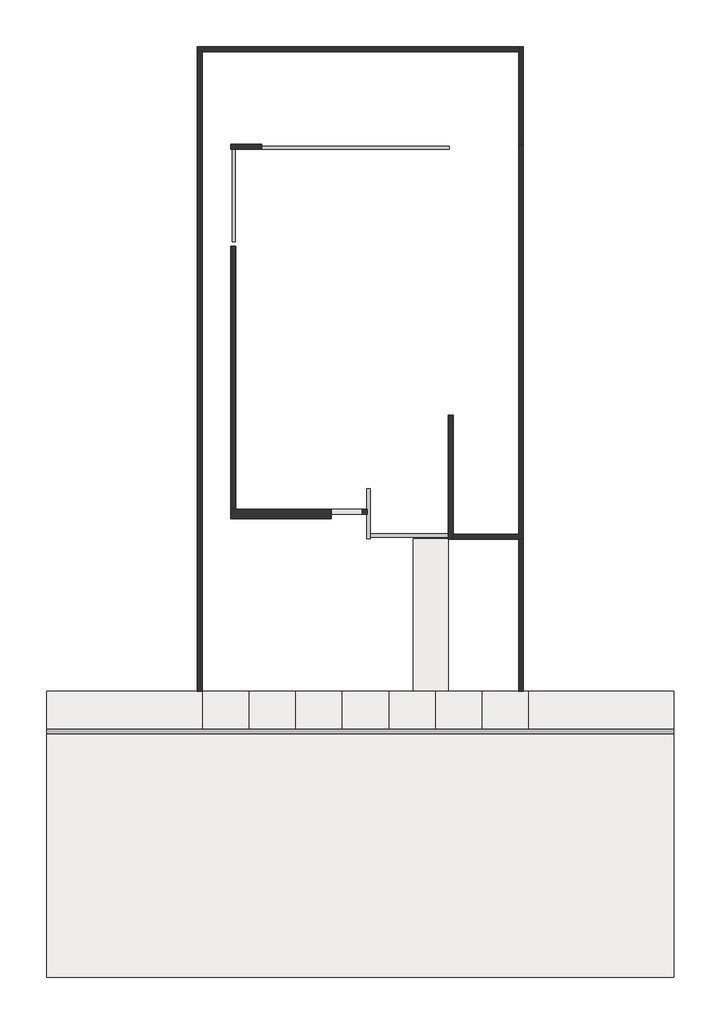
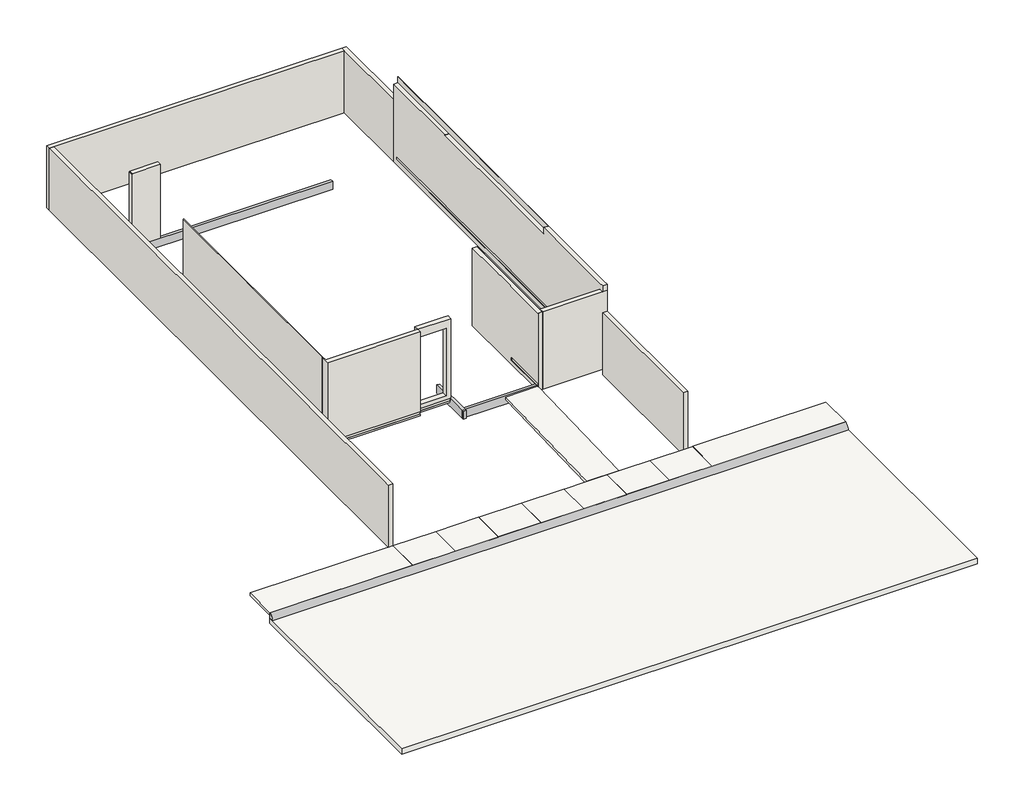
# One storey: 11 walls, 4 proxies, 3 slabs.
"""IFC4 building model written with IfcOpenShell, lengths in millimetres."""

from ifc_helpers import new_model, si_unit, frame, origin, place, context, project, spatial, polyline, circle_curve, outline, extrude, faceted_brep, element, save
from ifc_brep_helpers import plane_surface, cylinder_surface, advanced_brep

model = new_model("IFC4")

# Units and contexts
model_context = context("Model", 3, world=origin())
ifc_project = project(units=[si_unit("LENGTHUNIT", "METRE", prefix="MILLI")], contexts=[model_context])

# Site, building, storey
site = spatial("IfcSite", under=ifc_project)
building = spatial("IfcBuilding", under=site)
storey = spatial("IfcBuildingStorey", under=building, Name="00_NTN", Elevation=0.0)

# Proxies
placement = place(None, origin())
element("IfcBuildingElementProxy", 1, Name="GUARNICIÓN TIPO PECHO PALOMA", ObjectType="GUARNICIÓN TIPO PECHO PALOMA", at=placement, inside=storey, context=model_context, shape_type="AdvancedBrep", body=[
    advanced_brep(
    [(-2088.4653648, -7278.0146426, -200.0), (-2088.4653648, -7441.0789185, -200.0), (-2088.4653648, -7278.0146426, 0.0), (-2088.4653648, -7278.0146426, -100.0), (18091.5346352, -7441.0789185, -200.0), (18091.5346352, -7278.0146426, -200.0), (18091.5346352, -7278.0146426, -100.0), (18091.5346352, -7278.0146426, 0.0), (13416.5346352, -7278.0146426, 0.0), (13411.5346352, -7278.0146426, 0.0), (11916.5346352, -7278.0146426, 0.0), (11911.5346352, -7278.0146426, 0.0), (10416.5346352, -7278.0146426, 0.0), (10411.5346352, -7278.0146426, 0.0), (8916.5346352, -7278.0146426, 0.0), (8911.5346352, -7278.0146426, 0.0), (7416.5346352, -7278.0146426, 0.0), (7411.5346352, -7278.0146426, 0.0), (5916.5346352, -7278.0146426, 0.0), (5911.5346352, -7278.0146426, 0.0), (4416.5346352, -7278.0146426, 0.0), (4411.5346352, -7278.0146426, 0.0), (2916.5346352, -7278.0146426, 0.0), (2911.5346352, -7278.0146426, 0.0)],
    [
        (0, 1),
        (1, 2, circle_curve(frame((-2088.4653648, -7188.8061829, -239.2084597), z_axis=(-1.0, 0.0, 0.0), x_axis=(0.0, -1.0, 0.0)), 255.3014619)),
        (2, 3),
        (3, 0),
        (4, 5),
        (5, 6),
        (6, 7),
        (7, 4, circle_curve(frame((18091.5346352, -7188.8061829, -239.2084597), z_axis=(1.0, 0.0, 0.0), x_axis=(0.0, -1.0, 0.0)), 255.3014619)),
        (0, 5),
        (4, 1),
        (7, 8),
        (8, 9),
        (9, 10),
        (10, 11),
        (11, 12),
        (12, 13),
        (13, 14),
        (14, 15),
        (15, 16),
        (16, 17),
        (17, 18),
        (18, 19),
        (19, 20),
        (20, 21),
        (21, 22),
        (22, 23),
        (23, 2),
    ],
    [
        plane_surface(frame((-2088.4653648, -7278.0146426, -258.0503015), z_axis=(-1.0, 0.0, 0.0), x_axis=(0.0, 1.0, 0.0))),
        plane_surface(frame((18091.5346352, -7278.0146426, -258.0503015), z_axis=(1.0, 0.0, 0.0), x_axis=(0.0, 1.0, 0.0))),
        plane_surface(frame((-2088.4653648, -7278.0146426, -200.0), z_axis=(0.0, 0.0, -1.0), x_axis=(1.0, 0.0, 0.0))),
        cylinder_surface(frame((-2088.4653648, -7188.8061829, -239.2084597), z_axis=(-1.0, 0.0, 0.0), x_axis=(0.0, -1.0, 0.0)), 255.3014619),
        plane_surface(frame((-2088.4653648, -7278.0146426, 0.0), z_axis=(0.0, 1.0, 0.0), x_axis=(1.0, 0.0, 0.0))),
    ],
    [
        (0, [[1, 2, 3, 4]]),
        (1, [[5, 6, 7, 8]]),
        (2, [[-1, 9, -5, 10]]),
        (3, [[-2, -10, -8, 11, 12, 13, 14, 15, 16, 17, 18, 19, 20, 21, 22, 23, 24, 25, 26, 27]]),
        (4, [[-9, -4, -3, -27, -26, -25, -24, -23, -22, -21, -20, -19, -18, -17, -16, -15, -14, -13, -12, -11, -7, -6]]),
    ],
),
])
element("IfcBuildingElementProxy", 2, Name="Borde de losa", ObjectType="Borde de losa", at=placement, inside=storey, context=model_context, shape_type="SweptSolid", body=[
    extrude(outline(polyline([(8216.5346352, -1113.0146426), (8216.5346352, -1013.0146426), (10846.5346352, -1013.0146426), (10846.5346352, -1113.0146426), (8216.5346352, -1113.0146426)])), frame((0.0, 0.0, -150.0), z_axis=(0.0, 0.0, 1.0), x_axis=(1.0, 0.0, 0.0)), (0.0, 0.0, 1.0), 300.0),
])
element("IfcBuildingElementProxy", 3, Name="Borde de losa", ObjectType="Borde de losa", at=placement, inside=storey, context=model_context, shape_type="SweptSolid", body=[
    extrude(outline(polyline([(8216.5346352, 436.9853574), (8316.5346352, 436.9853574), (8316.5346352, -1163.0146426), (8216.5346352, -1163.0146426), (8216.5346352, 436.9853574)])), frame((0.0, 0.0, -150.0), z_axis=(0.0, 0.0, 1.0), x_axis=(1.0, 0.0, 0.0)), (0.0, 0.0, 1.0), 300.0),
])
element("IfcBuildingElementProxy", 4, Name="Borde de losa", ObjectType="Borde de losa", at=placement, inside=storey, context=model_context, shape_type="Brep", body=[
    faceted_brep([(10866.5346352, 11451.9853574, -150.0), (10866.5346352, 11451.9853574, 150.0), (10866.5346352, 11351.9853574, 150.0), (10866.5346352, 11351.9853574, -150.0), (3881.5346352, 11451.9853574, -150.0), (3881.5346352, 11451.9853574, 150.0), (3981.5346352, 11351.9853574, 150.0), (3981.5346352, 11351.9853574, -150.0), (3881.5346352, 8386.9853574, -150.0), (3981.5346352, 8386.9853574, -150.0), (3981.5346352, 8386.9853574, 150.0), (3881.5346352, 8386.9853574, 150.0)], [[[0, 1, 2, 3]], [[1, 0, 4, 5]], [[2, 1, 5, 6]], [[3, 2, 6, 7]], [[0, 3, 7, 4]], [[8, 9, 10, 11]], [[5, 4, 8, 11]], [[6, 5, 11, 10]], [[7, 6, 10, 9]], [[4, 7, 9, 8]]]),
])

# Slabs
element("IfcSlab", 5, ObjectType="FIRME DE CONCRETO EXT 10 CM", at=placement, inside=storey, context=model_context, shape_type="SweptSolid", body=[
    extrude(outline(polyline([(-6078.0146426, -100.0), (-6078.0146426, 0.0), (-1163.0146426, 150.0), (-1163.0146426, 50.0), (-6078.0146426, -100.0)])), frame((9711.5346352, 0.0, 0.0), z_axis=(1.0, 0.0, 0.0), x_axis=(0.0, 1.0, 0.0)), (0.0, 0.0, 1.0), 1120.0),
])
element("IfcSlab", 6, ObjectType="BANQUETA DE CONCRETO 10 CM", at=placement, inside=storey, context=model_context, shape_type="SweptSolid", body=[
    extrude(outline(polyline([(-100.0, -2088.4653648), (-100.0, 18091.5346352), (0.0, 18091.5346352), (0.0, 13416.5346352), (-10.0, 13416.5346352), (-10.0, 13411.5346352), (0.0, 13411.5346352), (0.0, 11916.5346352), (-10.0, 11916.5346352), (-10.0, 11911.5346352), (0.0, 11911.5346352), (0.0, 10416.5346352), (-10.0, 10416.5346352), (-10.0, 10411.5346352), (0.0, 10411.5346352), (0.0, 8916.5346352), (-10.0, 8916.5346352), (-10.0, 8911.5346352), (0.0, 8911.5346352), (0.0, 7416.5346352), (-10.0, 7416.5346352), (-10.0, 7411.5346352), (0.0, 7411.5346352), (0.0, 5916.5346352), (-10.0, 5916.5346352), (-10.0, 5911.5346352), (0.0, 5911.5346352), (0.0, 4416.5346352), (-10.0, 4416.5346352), (-10.0, 4411.5346352), (0.0, 4411.5346352), (0.0, 2916.5346352), (-10.0, 2916.5346352), (-10.0, 2911.5346352), (0.0, 2911.5346352), (0.0, -2088.4653648), (-100.0, -2088.4653648)])), frame((0.0, -7278.0146426, 0.0), z_axis=(0.0, 1.0, 0.0), x_axis=(0.0, 0.0, 1.0)), (0.0, 0.0, 1.0), 1200.0),
])
element("IfcSlab", 7, ObjectType="VIALIDAD DE CONCRETO 20 CM", at=placement, inside=storey, context=model_context, shape_type="SweptSolid", body=[
    extrude(outline(polyline([(18091.5346352, -7278.0146426), (18091.5346352, -15278.0146426), (-2088.4653648, -15278.0146426), (-2088.4653648, -7278.0146426), (18091.5346352, -7278.0146426)])), frame((0.0, 0.0, -400.0), z_axis=(0.0, 0.0, 1.0), x_axis=(1.0, 0.0, 0.0)), (0.0, 0.0, 1.0), 200.0),
])

# Walls
element("IfcWall", 8, ObjectType="M_TABICÓN_28 MO+ MO", at=placement, inside=storey, context=model_context, shape_type="Brep", body=[
    faceted_brep([(3831.5346352, -528.0146426, 0.0), (7071.5346352, -528.0146426, 0.0), (7071.5346352, -528.0146426, 49.7164492), (7060.2812659, -528.0146426, 49.5956873), (3831.5346352, -528.0146426, 49.5956873), (7071.5346352, -528.0146426, 3100.0), (3991.5346352, -528.0146426, 3100.0), (3831.5346352, -528.0146426, 3100.0), (3831.5346352, -528.0146426, 149.5956873), (7060.2812659, -528.0146426, 149.5956873), (7071.5346352, -528.0146426, 149.7164492), (7071.5346352, -218.0146426, 0.0), (3991.5346352, -218.0146426, 0.0), (3831.5346352, -218.0146426, 0.0), (3831.5346352, -218.0146426, 3100.0), (3846.5346352, -218.0146426, 3100.0), (3846.5346352, -218.0146426, 2870.0), (3991.5346352, -218.0146426, 2870.0), (7071.5346352, -218.0146426, 2870.0), (7071.5346352, -378.0146426, 2870.0), (7071.5346352, -378.0146426, 3100.0), (7071.5346352, -513.0146426, 150.0), (7071.5346352, -513.0146426, 50.0), (3846.5346352, -378.0146426, 3100.0), (3831.5346352, -513.0146426, 50.0), (3831.5346352, -513.0146426, 150.0), (3846.5346352, -378.0146426, 2870.0)], [[[0, 1, 2, 3, 4]], [[5, 6, 7, 8, 9, 10]], [[11, 12, 13, 14, 15, 16, 17, 18]], [[1, 0, 13, 12, 11]], [[1, 11, 18, 19, 20, 5, 10, 21, 22, 2]], [[7, 6, 5, 20, 23, 15, 14]], [[7, 14, 13, 0, 4, 24, 25, 8]], [[21, 25, 24, 22]], [[25, 21, 9, 8]], [[9, 21, 10]], [[3, 22, 24, 4]], [[22, 3, 2]], [[26, 19, 18, 17, 16]], [[23, 26, 16, 15]], [[26, 23, 20, 19]]]),
])
element("IfcWall", 9, ObjectType="M_LADRILLO_13-YESO+YESO", at=placement, inside=storey, context=model_context, shape_type="Brep", body=[
    faceted_brep([(10831.5346352, 2801.9853574, 0.0), (10831.5346352, -1178.0146426, 0.0), (10831.5346352, -1178.0146426, 2870.0), (10831.5346352, -1163.0146426, 2870.0), (10831.5346352, -1018.0146426, 2870.0), (10831.5346352, 421.9853574, 2870.0), (10831.5346352, 581.9853574, 2870.0), (10831.5346352, 2801.9853574, 2870.0), (10831.5346352, -1163.0146426, 150.0), (10831.5346352, 436.9853574, 150.0), (10831.5346352, 436.9853574, 250.0), (10831.5346352, 421.9853574, 250.0), (10831.5346352, -1163.0146426, 250.0), (10991.5346352, -1178.0146426, 0.0), (10991.5346352, -1018.0146426, 0.0), (10991.5346352, 2801.9853574, 0.0), (10991.5346352, 2801.9853574, 2870.0), (10991.5346352, -1018.0146426, 2870.0), (10991.5346352, -1163.0146426, 2870.0), (10991.5346352, -1178.0146426, 2870.0), (10976.5346352, 2801.9853574, 2870.0), (10976.5346352, -1178.0146426, 2870.0), (10976.5346352, -1163.0146426, 2870.0), (10976.5346352, 2381.9853574, 2870.0), (10846.5346352, -1163.0146426, 150.0), (10846.5346352, 436.9853574, 150.0), (10846.5346352, 436.9853574, 250.0), (10846.5346352, -1163.0146426, 250.0)], [[[0, 1, 2, 3, 4, 5, 6, 7], [8, 9, 10, 11, 12]], [[13, 14, 15, 16, 17, 18, 19]], [[1, 0, 15, 14, 13]], [[0, 7, 20, 16, 15]], [[2, 1, 13, 19, 21]], [[7, 6, 5, 4, 3, 22, 23, 20]], [[3, 2, 21, 22]], [[18, 17, 16, 20, 23, 22]], [[19, 18, 22, 21]], [[24, 25, 9, 8]], [[26, 27, 12, 11, 10]], [[25, 26, 10, 9]], [[25, 24, 27, 26]], [[27, 24, 8, 12]]]),
])
element("IfcWall", 10, ObjectType="M_LADRILLO_13-YESO+YESO", at=placement, inside=storey, context=model_context, shape_type="Brep", body=[
    faceted_brep([(10991.5346352, -1178.0146426, 0.0), (13251.5346352, -1178.0146426, 0.0), (13251.5346352, -1178.0146426, 2100.0), (13251.5346352, -1178.0146426, 2870.0), (13091.5346352, -1178.0146426, 2870.0), (10991.5346352, -1178.0146426, 2870.0), (13251.5346352, -1018.0146426, 0.0), (13091.5346352, -1018.0146426, 0.0), (10991.5346352, -1018.0146426, 0.0), (10991.5346352, -1018.0146426, 185.0), (13091.5346352, -1018.0146426, 185.0), (13106.5346352, -1018.0146426, 185.0), (13106.5346352, -1018.0146426, 300.0), (13091.5346352, -1018.0146426, 300.0), (10991.5346352, -1018.0146426, 300.0), (10991.5346352, -1018.0146426, 2870.0), (13091.5346352, -1018.0146426, 2870.0), (13251.5346352, -1018.0146426, 2870.0), (10991.5346352, -1033.0146426, 300.0), (10991.5346352, -1033.0146426, 185.0), (13106.5346352, -1033.0146426, 185.0), (13106.5346352, -1033.0146426, 300.0)], [[[0, 1, 2, 3, 4, 5]], [[6, 7, 8, 9, 10, 11, 12, 13, 14, 15, 16, 17]], [[1, 0, 8, 7, 6]], [[5, 4, 3, 17, 16, 15]], [[0, 5, 15, 14, 18, 19, 9, 8]], [[1, 6, 17, 3, 2]], [[19, 20, 11, 10, 9]], [[12, 21, 18, 14, 13]], [[20, 21, 12, 11]], [[21, 20, 19, 18]]]),
])
element("IfcWall", 11, ObjectType="M_LADRILLO_13-YESO+YESO", at=placement, inside=storey, context=model_context, shape_type="Brep", body=[
    faceted_brep([(13251.5346352, -1018.0146426, 0.0), (13251.5346352, 11501.9853574, 0.0), (13251.5346352, 11501.9853574, 2300.0), (13251.5346352, 11501.9853574, 3100.0), (13251.5346352, 8321.9853574, 3100.0), (13251.5346352, -1018.0146426, 3100.0), (13251.5346352, -1178.0146426, 3100.0), (13251.5346352, -1178.0146426, 2870.0), (13251.5346352, -1018.0146426, 2870.0), (13091.5346352, 11501.9853574, 0.0), (13091.5346352, 11341.9853574, 0.0), (13091.5346352, 8401.9853574, 0.0), (13091.5346352, 8241.9853574, 0.0), (13091.5346352, -1018.0146426, 0.0), (13091.5346352, -1018.0146426, 185.0), (13091.5346352, 8241.9853574, 185.0), (13091.5346352, 8401.9853574, 185.0), (13091.5346352, 11341.9853574, 185.0), (13091.5346352, 11356.9853574, 185.0), (13091.5346352, 11356.9853574, 300.0), (13091.5346352, 11341.9853574, 300.0), (13091.5346352, 8401.9853574, 300.0), (13091.5346352, 8241.9853574, 300.0), (13091.5346352, 4461.9853574, 300.0), (13091.5346352, 4301.9853574, 300.0), (13091.5346352, -1018.0146426, 300.0), (13091.5346352, -1018.0146426, 2870.0), (13091.5346352, -1178.0146426, 2870.0), (13091.5346352, -1178.0146426, 3100.0), (13091.5346352, -1018.0146426, 3100.0), (13091.5346352, 2381.9853574, 3100.0), (13091.5346352, 2381.9853574, 2870.0), (13091.5346352, 4301.9853574, 2870.0), (13091.5346352, 4461.9853574, 2870.0), (13091.5346352, 8241.9853574, 2870.0), (13091.5346352, 8386.9853574, 2870.0), (13091.5346352, 8386.9853574, 2884.0), (13091.5346352, 8401.9853574, 2884.0), (13091.5346352, 11341.9853574, 2884.0), (13091.5346352, 11501.9853574, 2884.0), (13091.5346352, 11501.9853574, 2300.0), (13236.5346352, 11501.9853574, 3100.0), (13236.5346352, 8386.9853574, 3100.0), (13236.5346352, 2381.9853574, 3100.0), (13236.5346352, 11501.9853574, 2884.0), (13106.5346352, -1018.0146426, 300.0), (13106.5346352, -1018.0146426, 185.0), (13106.5346352, 11356.9853574, 185.0), (13106.5346352, 11356.9853574, 300.0), (13236.5346352, 8386.9853574, 2884.0), (13236.5346352, 8386.9853574, 2870.0), (13236.5346352, 2381.9853574, 2870.0)], [[[0, 1, 2, 3, 4, 5, 6, 7, 8]], [[9, 10, 11, 12, 13, 14, 15, 16, 17, 18, 19, 20, 21, 22, 23, 24, 25, 26, 27, 28, 29, 30, 31, 32, 33, 34, 35, 36, 37, 38, 39, 40]], [[1, 0, 13, 12, 11, 10, 9]], [[6, 5, 4, 3, 41, 42, 43, 30, 29, 28]], [[1, 9, 40, 39, 44, 41, 3, 2]], [[13, 0, 8, 26, 25, 45, 46, 14]], [[6, 28, 27, 7]], [[27, 26, 8, 7]], [[46, 47, 18, 17, 16, 15, 14]], [[48, 45, 25, 24, 23, 22, 21, 20, 19]], [[47, 46, 45, 48]], [[49, 44, 39, 38, 37, 36]], [[44, 49, 50, 51, 43, 42, 41]], [[51, 50, 35, 34, 33, 32, 31]], [[50, 49, 36, 35]], [[43, 51, 31, 30]], [[47, 48, 19, 18]]]),
])
element("IfcWall", 12, ObjectType="M_LADRILLO_13-YESO+YESO", at=placement, inside=storey, context=model_context, shape_type="SweptSolid", body=[
    extrude(outline(polyline([(3100.0, 3831.5346352), (0.0, 3831.5346352), (0.0, 3991.5346352), (185.0, 3991.5346352), (185.0, 3976.5346352), (300.0, 3976.5346352), (300.0, 3991.5346352), (2870.0, 3991.5346352), (2870.0, 3846.5346352), (3100.0, 3846.5346352), (3100.0, 3831.5346352)])), frame((0.0, -218.0146426, 0.0), z_axis=(0.0, 1.0, 0.0), x_axis=(0.0, 0.0, 1.0)), (0.0, 0.0, 1.0), 8460.0),
])
element("IfcWall", 13, ObjectType="M_LADRILLO_13-YESO+YESO", at=placement, inside=storey, context=model_context, shape_type="Brep", body=[
    faceted_brep([(3831.5346352, 11361.9853574, 0.0), (4831.5346352, 11361.9853574, 0.0), (4831.5346352, 11361.9853574, 150.0), (4831.5346352, 11361.9853574, 250.0), (4831.5346352, 11361.9853574, 2884.0), (3846.5346352, 11361.9853574, 2884.0), (3846.5346352, 11361.9853574, 2870.0), (3831.5346352, 11361.9853574, 2870.0), (3831.5346352, 11361.9853574, 250.0), (3831.5346352, 11361.9853574, 150.0), (3831.5346352, 11521.9853574, 0.0), (3831.5346352, 11521.9853574, 2870.0), (3846.5346352, 11521.9853574, 2870.0), (3846.5346352, 11521.9853574, 2884.0), (4831.5346352, 11521.9853574, 2884.0), (4831.5346352, 11521.9853574, 0.0)], [[[0, 1, 2, 3, 4, 5, 6, 7, 8, 9]], [[10, 11, 12, 13, 14, 15]], [[1, 0, 10, 15]], [[4, 3, 2, 1, 15, 14]], [[0, 9, 8, 7, 11, 10]], [[7, 6, 12, 11]], [[12, 6, 5, 13]], [[5, 4, 14, 13]]]),
])
element("IfcWall", 14, ObjectType="M_LADRILLO_13-YESO+YESO", at=placement, inside=storey, context=model_context, shape_type="Brep", body=[
    faceted_brep([(13251.5346352, 11501.9853574, 0.0), (13251.5346352, 14661.9853574, 0.0), (13251.5346352, 14661.9853574, 2300.0), (13251.5346352, 11501.9853574, 2300.0), (13091.5346352, 11501.9853574, 0.0), (13091.5346352, 11501.9853574, 2300.0), (13091.5346352, 14501.9853574, 2300.0), (13091.5346352, 14661.9853574, 2300.0), (13091.5346352, 14661.9853574, 0.0), (13091.5346352, 14501.9853574, 0.0)], [[[0, 1, 2, 3]], [[4, 5, 6, 7, 8, 9]], [[1, 0, 4, 9, 8]], [[3, 2, 7, 6, 5]], [[0, 3, 5, 4]], [[2, 1, 8, 7]]]),
])
element("IfcWall", 15, ObjectType="M_LADRILLO_13-YESO+YESO", at=placement, inside=storey, context=model_context, shape_type="Brep", body=[
    faceted_brep([(13091.5346352, 14661.9853574, 0.0), (2751.5346352, 14661.9853574, 0.0), (2751.5346352, 14661.9853574, 2300.0), (13091.5346352, 14661.9853574, 2300.0), (13091.5346352, 14501.9853574, 0.0), (13091.5346352, 14501.9853574, 2300.0), (2911.5346352, 14501.9853574, 2300.0), (2751.5346352, 14501.9853574, 2300.0), (2751.5346352, 14501.9853574, 0.0), (2911.5346352, 14501.9853574, 0.0)], [[[0, 1, 2, 3]], [[4, 5, 6, 7, 8, 9]], [[1, 0, 4, 9, 8]], [[3, 2, 7, 6, 5]], [[0, 3, 5, 4]], [[2, 1, 8, 7]]]),
])
element("IfcWall", 16, ObjectType="M_LADRILLO_13-YESO+YESO", at=placement, inside=storey, context=model_context, shape_type="Brep", body=[
    faceted_brep([(2751.5346352, 14501.9853574, 0.0), (2751.5346352, -6078.0146426, 0.0), (2751.5346352, -6078.0146426, 2300.0), (2751.5346352, 14501.9853574, 2300.0), (2911.5346352, -6078.0146426, 2300.0), (2911.5346352, -6078.0146426, 0.0), (2911.5346352, -6064.1565599, 0.4229323), (2911.5346352, -6058.0206306, 0.5389222), (2911.5346352, -513.0146426, 150.0), (2911.5346352, -513.0146426, 50.0), (2911.5346352, -2368.0146426, 0.0), (2911.5346352, 14501.9853574, 0.0), (2911.5346352, 14501.9853574, 2300.0), (2896.5346352, -2368.0146426, 0.0), (2896.5346352, -6078.0146426, 0.0), (2896.5346352, -513.0146426, 150.0), (2896.5346352, -513.0146426, 50.0)], [[[0, 1, 2, 3]], [[4, 5, 6, 7, 8, 9, 10, 11, 12]], [[1, 0, 11, 10, 13, 14]], [[2, 1, 14, 5, 4]], [[3, 2, 4, 12]], [[0, 3, 12, 11]], [[15, 14, 13, 16]], [[15, 16, 9, 8]], [[14, 6, 5]], [[14, 15, 8, 7]], [[14, 7, 6]], [[16, 13, 10, 9]]]),
])
element("IfcWall", 17, ObjectType="M_LADRILLO_13-YESO+YESO", at=placement, inside=storey, context=model_context, shape_type="Brep", body=[
    faceted_brep([(13091.5346352, -1178.0146426, -200.0), (13091.5346352, -6078.0146426, -200.0), (13091.5346352, -6078.0146426, 2100.0), (13091.5346352, -1178.0146426, 2100.0), (13251.5346352, -1178.0146426, -200.0), (13251.5346352, -1178.0146426, 0.0), (13251.5346352, -1178.0146426, 2100.0), (13251.5346352, -6078.0146426, 2100.0), (13251.5346352, -6078.0146426, -200.0)], [[[0, 1, 2, 3]], [[4, 5, 6, 7, 8]], [[1, 0, 4, 8]], [[2, 1, 8, 7]], [[3, 2, 7, 6]], [[0, 3, 6, 5, 4]]]),
])
element("IfcWall", 18, ObjectType="M_LADRILLO_13-YESO+YESO", at=placement, inside=storey, context=model_context, shape_type="Brep", body=[
    faceted_brep([(7071.5346352, -378.0146426, 0.0), (8231.5346352, -378.0146426, 0.0), (8231.5346352, -378.0146426, 2870.0), (8231.5346352, -378.0146426, 3100.0), (8071.5346352, -378.0146426, 3100.0), (7071.5346352, -378.0146426, 3100.0), (7071.5346352, -378.0146426, 2800.0), (8071.5346352, -378.0146426, 2800.0), (8071.5346352, -378.0146426, 300.0), (7071.5346352, -378.0146426, 300.0), (7071.5346352, -378.0146426, 150.0), (8216.5346352, -378.0146426, 150.0), (8216.5346352, -378.0146426, 50.0), (7071.5346352, -378.0146426, 50.0), (8231.5346352, -218.0146426, 0.0), (7071.5346352, -218.0146426, 0.0), (7071.5346352, -218.0146426, 300.0), (8071.5346352, -218.0146426, 300.0), (8071.5346352, -218.0146426, 2800.0), (7071.5346352, -218.0146426, 2800.0), (7071.5346352, -218.0146426, 3100.0), (8071.5346352, -218.0146426, 3100.0), (8231.5346352, -218.0146426, 3100.0), (8231.5346352, -218.0146426, 264.2666725), (8231.5346352, -298.0146426, 3100.0), (7071.5346352, -363.0146426, 50.0), (7071.5346352, -363.0146426, 150.0), (8216.5346352, -363.0146426, 150.0), (8216.5346352, -363.0146426, 50.0)], [[[0, 1, 2, 3, 4, 5, 6, 7, 8, 9, 10, 11, 12, 13]], [[14, 15, 16, 17, 18, 19, 20, 21, 22, 23]], [[1, 0, 15, 14]], [[5, 4, 3, 24, 22, 21, 20]], [[5, 20, 19, 6]], [[15, 0, 13, 25, 26, 10, 9, 16]], [[1, 14, 23, 22, 24, 3, 2]], [[18, 7, 6, 19]], [[7, 18, 17, 8]], [[8, 17, 16, 9]], [[27, 28, 12, 11]], [[28, 27, 26, 25]], [[26, 27, 11, 10]], [[28, 25, 13, 12]]]),
])

save(model, "model.ifc")
